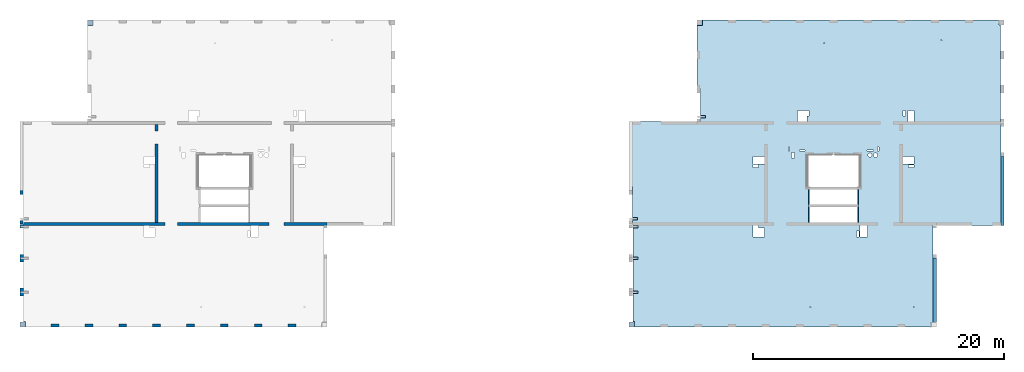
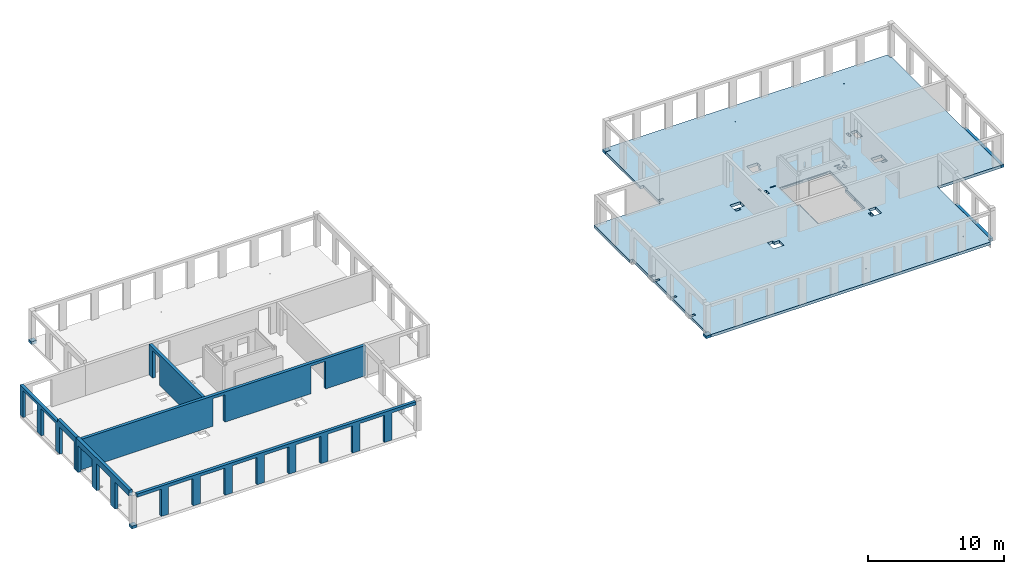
# One storey, part 2 of 8: 7 slabs, 5 walls, 55 openings.
"""IFC2X3 building model written with IfcOpenShell, lengths in millimetres."""

import ifcopenshell
import ifcopenshell.guid

model = None  # the IFC model being written
_history = None  # IfcOwnerHistory: only IFC2X3 demands one
_inside = {}  # id of a spatial element -> (the spatial element, [elements in it])
_under = {}  # id of a project, library or spatial element -> (it, [spatial elements below it])
_declared = {}  # id of a project -> (the project, [libraries it declares])
_typed = {}  # id of a type object -> (the type object, [elements of that type])
_made_of = {}  # id of a material, layer set ... -> (it, [elements and type objects made of it])


def new_model(schema):
    """Start an empty IFC model of exactly this schema.

    Asked for "IFC4X3", IfcOpenShell would pick the latest addendum, in which some entities
    have other attributes; the version numbers below select the first issue.
    IFC2X3 requires an IfcOwnerHistory on every rooted entity: one is made here for all.
    """
    global model, _history
    if schema == "IFC4X3":
        model = ifcopenshell.file(schema_version=(4, 3, 0, 0))
    else:
        model = ifcopenshell.file(schema=schema)
    _inside.clear()
    _under.clear()
    _declared.clear()
    _typed.clear()
    _made_of.clear()
    _history = None
    if model.schema == "IFC2X3":
        org = make("IfcOrganization", Name="unknown")
        user = make(
            "IfcPersonAndOrganization",
            ThePerson=make("IfcPerson", FamilyName="unknown"),
            TheOrganization=org,
        )
        app = make(
            "IfcApplication",
            ApplicationDeveloper=org,
            Version="unknown",
            ApplicationFullName="unknown",
            ApplicationIdentifier="unknown",
        )
        _history = make(
            "IfcOwnerHistory",
            OwningUser=user,
            OwningApplication=app,
            ChangeAction="ADDED",
            CreationDate=0,
        )
    return model


def make(cls, **values):
    """One entity of the class cls with the attributes given. An attribute that is None is left unset."""
    return model.create_entity(
        cls, **{name: value for name, value in values.items() if value is not None}
    )


def entity(cls, *values):
    """Any entity or typed value of the class cls, its attributes in the order of the schema. None: left unset."""
    e = model.create_entity(cls)
    for i, value in enumerate(values):
        if value is not None:
            e[i] = value
    return e


def rooted(cls, **values):
    """An entity with a GlobalId (a new one), such as an element, a storey or a relation."""
    return make(cls, GlobalId=ifcopenshell.guid.new(), OwnerHistory=_history, **values)


def si_unit(unit_type, name, prefix=None):
    """IfcSIUnit, for example si_unit("LENGTHUNIT", "METRE", prefix="MILLI")."""
    return make("IfcSIUnit", UnitType=unit_type, Prefix=prefix, Name=name)


def converted_unit(unit_type, name, factor, base, dimensions=None, offset=None):
    """IfcConversionBasedUnit, such as the inch: factor (a typed value) times the base unit."""
    return make(
        "IfcConversionBasedUnit"
        if offset is None
        else "IfcConversionBasedUnitWithOffset",
        ConversionOffset=offset,
        Dimensions=None
        if dimensions is None
        else entity("IfcDimensionalExponents", *dimensions),
        UnitType=unit_type,
        Name=name,
        ConversionFactor=make(
            "IfcMeasureWithUnit", ValueComponent=factor, UnitComponent=base
        ),
    )


def derived_unit(unit_type, elements):
    """IfcDerivedUnit: a product of units, each with its exponent."""
    return make(
        "IfcDerivedUnit",
        Elements=[
            make("IfcDerivedUnitElement", Unit=unit, Exponent=power)
            for unit, power in elements
        ],
        UnitType=unit_type,
    )


def assignment(units):
    """IfcUnitAssignment: the units of a project."""
    return None if units is None else make("IfcUnitAssignment", Units=units)


def point(xyz):
    """IfcCartesianPoint."""
    return None if xyz is None else make("IfcCartesianPoint", Coordinates=xyz)


def direction(xyz):
    """IfcDirection."""
    return None if xyz is None else make("IfcDirection", DirectionRatios=xyz)


def frame(location, z_axis=None, x_axis=None):
    """IfcAxis2Placement3D, a coordinate frame: its origin and axes. An axis left out is left unset."""
    return make(
        "IfcAxis2Placement3D",
        Location=point(location),
        Axis=direction(z_axis),
        RefDirection=direction(x_axis),
    )


def frame_2d(location, x_axis=None):
    """IfcAxis2Placement2D, a coordinate frame in the plane: its origin and x axis."""
    return make(
        "IfcAxis2Placement2D", Location=point(location), RefDirection=direction(x_axis)
    )


def origin():
    """The frame at (0, 0, 0) with its axes left unset."""
    return frame((0.0, 0.0, 0.0))


def origin_2d_with_axis():
    """The frame at (0, 0) in the plane with the x axis (1, 0) written out."""
    return frame_2d((0.0, 0.0), x_axis=(1.0, 0.0))


def place(relative_to, where):
    """IfcLocalPlacement: puts the frame where relative to a parent placement (None: the world)."""
    return make(
        "IfcLocalPlacement", PlacementRelTo=relative_to, RelativePlacement=where
    )


def context(
    kind, dimensions, precision=None, world=None, true_north=None, identifier=None
):
    """IfcGeometricRepresentationContext, for example the 3D "Model" context."""
    return make(
        "IfcGeometricRepresentationContext",
        ContextIdentifier=identifier,
        ContextType=kind,
        CoordinateSpaceDimension=dimensions,
        Precision=precision,
        WorldCoordinateSystem=world,
        TrueNorth=true_north,
    )


def subcontext(parent, identifier, kind, view, scale=None):
    """IfcGeometricRepresentationSubContext, for example "Body" below "Model"."""
    return make(
        "IfcGeometricRepresentationSubContext",
        ContextIdentifier=identifier,
        ContextType=kind,
        ParentContext=parent,
        TargetScale=scale,
        TargetView=view,
    )


def project(units=None, contexts=None):
    """IfcProject with its units and contexts."""
    return rooted(
        "IfcProject",
        Name="project",
        RepresentationContexts=contexts,
        UnitsInContext=assignment(units),
    )


def spatial(cls, under=None, at=None, **own):
    """A site, building, storey or space (cls), placed at a placement, below another one or the project."""
    s = rooted(cls, ObjectPlacement=at, **own)
    if under is not None:
        _under.setdefault(under.id(), (under, []))[1].append(s)
    return s


def polyline(points):
    """IfcPolyline through the points."""
    return make("IfcPolyline", Points=[point(p) for p in points])


def profile(cls, at=None, kind="AREA", **sizes):
    """A parametric profile (cls). Its sizes go by their IFC names, for example OverallWidth=200.0."""
    return make(cls, ProfileType=kind, Position=at, **sizes)


def rectangle(**sizes):
    """IfcRectangleProfileDef."""
    return profile("IfcRectangleProfileDef", **sizes)


def circle(**sizes):
    """IfcCircleProfileDef."""
    return profile("IfcCircleProfileDef", **sizes)


def outline(outer, holes=None, kind="AREA"):
    """IfcArbitraryClosedProfileDef: a profile drawn as a closed curve; with holes, ...WithVoids."""
    if holes is None:
        return make("IfcArbitraryClosedProfileDef", ProfileType=kind, OuterCurve=outer)
    return make(
        "IfcArbitraryProfileDefWithVoids",
        ProfileType=kind,
        OuterCurve=outer,
        InnerCurves=holes,
    )


def extrude(swept, where, along, depth):
    """IfcExtrudedAreaSolid: the profile swept, set in the frame where, extruded along a direction by depth."""
    return make(
        "IfcExtrudedAreaSolid",
        SweptArea=swept,
        Position=where,
        ExtrudedDirection=direction(along),
        Depth=depth,
    )


def shape(context_of_items, identifier, shape_type, items):
    """IfcShapeRepresentation: the items that make up one representation, for example the "Body"."""
    return make(
        "IfcShapeRepresentation",
        ContextOfItems=context_of_items,
        RepresentationIdentifier=identifier,
        RepresentationType=shape_type,
        Items=items,
    )


def material(Name=None, Category=None):
    """IfcMaterial."""
    return make("IfcMaterial", Name=Name, Category=Category)


def layer(
    of_material, thickness, ventilated=None, Name=None, Category=None, Priority=None
):
    """IfcMaterialLayer: one layer of a wall or slab, of a material (None: an air gap)."""
    return make(
        "IfcMaterialLayer",
        Material=of_material,
        LayerThickness=thickness,
        IsVentilated=ventilated,
        Name=Name,
        Category=Category,
        Priority=Priority,
    )


def layer_set(layers, Name=None):
    """IfcMaterialLayerSet."""
    return make("IfcMaterialLayerSet", MaterialLayers=layers, LayerSetName=Name)


def layer_usage(for_layer_set, set_direction, sense, offset, extent=None):
    """IfcMaterialLayerSetUsage: how a layer set lies in its element."""
    return make(
        "IfcMaterialLayerSetUsage",
        ForLayerSet=for_layer_set,
        LayerSetDirection=set_direction,
        DirectionSense=sense,
        OffsetFromReferenceLine=offset,
        ReferenceExtent=extent,
    )


def made_of(thing, what):
    """Note that an element or type object is made of a material, layer set ...; save() writes the relation."""
    if what is not None:
        _made_of.setdefault(what.id(), (what, []))[1].append(thing)
    return thing


def type_object(cls, material=None, **own):
    """A type object (cls), such as IfcWallType, which elements share."""
    return made_of(rooted(cls, **own), material)


def element(
    cls,
    number,
    at=None,
    inside=None,
    cuts=None,
    type_object=None,
    material=None,
    context=None,
    identifier="Body",
    shape_type=None,
    held_by="IfcProductDefinitionShape",
    body=None,
    shapes=None,
    **own,
):
    """One element of the class cls, such as IfcWall. Its Tag is "e" and its number.

    at: its placement. inside: the storey or other place that contains it. cuts: it is an
    opening in that element (IfcRelVoidsElement). A single representation is given by context,
    identifier, shape_type and body (its items); several are given by shapes. held_by: the class
    of the entity that holds the representations. save() writes the other relations.
    """
    e = rooted(cls, Tag="e%d" % number, ObjectPlacement=at, **own)
    if body is not None:
        shapes = [shape(context, identifier, shape_type, body)]
    if shapes is not None:
        e.Representation = make(held_by, Representations=shapes)
    if inside is not None:
        _inside.setdefault(inside.id(), (inside, []))[1].append(e)
    if cuts is not None:
        rooted(
            "IfcRelVoidsElement", RelatingBuildingElement=cuts, RelatedOpeningElement=e
        )
    if type_object is not None:
        _typed.setdefault(type_object.id(), (type_object, []))[1].append(e)
    return made_of(e, material)


def aggregate(whole, parts):
    """IfcRelAggregates: a whole, such as a stair, and the parts it consists of."""
    return rooted("IfcRelAggregates", RelatingObject=whole, RelatedObjects=parts)


def save(model, path):
    """Write the relations noted so far, then the file.

    IfcRelAggregates (storeys below a building ...), IfcRelContainedInSpatialStructure (elements
    in a storey), IfcRelDefinesByType, IfcRelAssociatesMaterial and IfcRelDeclares: one each for
    every whole, place, type object, material and project.
    """
    for whole, parts in _under.values():
        aggregate(whole, parts)
    for where, things in _inside.values():
        rooted(
            "IfcRelContainedInSpatialStructure",
            RelatedElements=things,
            RelatingStructure=where,
        )
    for kind, things in _typed.values():
        rooted("IfcRelDefinesByType", RelatedObjects=things, RelatingType=kind)
    for what, things in _made_of.values():
        rooted("IfcRelAssociatesMaterial", RelatedObjects=things, RelatingMaterial=what)
    for by, libraries in _declared.values():
        rooted("IfcRelDeclares", RelatingContext=by, RelatedDefinitions=libraries)
    model.write(path)


model = new_model("IFC2X3")

# Units and contexts
model_context = context("Model", 3, precision=0.01, world=origin(), true_north=direction((6.12303176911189e-17, 1.0)))
body_context = subcontext(model_context, "Body", "Model", "MODEL_VIEW")
ifc_project = project(units=[si_unit("LENGTHUNIT", "METRE", prefix="MILLI"), si_unit("AREAUNIT", "SQUARE_METRE"), si_unit("VOLUMEUNIT", "CUBIC_METRE"), converted_unit("PLANEANGLEUNIT", "DEGREE", entity("IfcRatioMeasure", 0.0174532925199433), si_unit("PLANEANGLEUNIT", "RADIAN"), dimensions=[0, 0, 0, 0, 0, 0, 0]), si_unit("MASSUNIT", "GRAM", prefix="KILO"), derived_unit("MASSDENSITYUNIT", [(si_unit("MASSUNIT", "GRAM", prefix="KILO"), 1), (si_unit("LENGTHUNIT", "METRE"), -3)]), si_unit("TIMEUNIT", "SECOND"), si_unit("FREQUENCYUNIT", "HERTZ"), si_unit("THERMODYNAMICTEMPERATUREUNIT", "DEGREE_CELSIUS"), derived_unit("THERMALTRANSMITTANCEUNIT", [(si_unit("MASSUNIT", "GRAM", prefix="KILO"), 1), (si_unit("THERMODYNAMICTEMPERATUREUNIT", "KELVIN"), -1), (si_unit("TIMEUNIT", "SECOND"), -3)]), derived_unit("VOLUMETRICFLOWRATEUNIT", [(si_unit("LENGTHUNIT", "METRE"), 3), (si_unit("TIMEUNIT", "SECOND"), -1)]), si_unit("ELECTRICCURRENTUNIT", "AMPERE"), si_unit("ELECTRICVOLTAGEUNIT", "VOLT"), si_unit("POWERUNIT", "WATT"), si_unit("FORCEUNIT", "NEWTON", prefix="KILO"), si_unit("ILLUMINANCEUNIT", "LUX"), si_unit("LUMINOUSFLUXUNIT", "LUMEN"), si_unit("LUMINOUSINTENSITYUNIT", "CANDELA"), derived_unit("USERDEFINED", [(si_unit("MASSUNIT", "GRAM", prefix="KILO"), -1), (si_unit("LENGTHUNIT", "METRE"), -2), (si_unit("TIMEUNIT", "SECOND"), 3), (si_unit("LUMINOUSFLUXUNIT", "LUMEN"), 1)]), derived_unit("LINEARVELOCITYUNIT", [(si_unit("LENGTHUNIT", "METRE"), 1), (si_unit("TIMEUNIT", "SECOND"), -1)]), si_unit("PRESSUREUNIT", "PASCAL"), derived_unit("USERDEFINED", [(si_unit("LENGTHUNIT", "METRE"), -2), (si_unit("MASSUNIT", "GRAM", prefix="KILO"), 1), (si_unit("TIMEUNIT", "SECOND"), -2)])], contexts=[model_context])

# Site, building, storey
site_placement = place(None, origin())
site = spatial("IfcSite", under=ifc_project, at=site_placement, Name="Default", CompositionType="ELEMENT")
building_placement = place(site_placement, origin())
building = spatial("IfcBuilding", under=site, at=building_placement, Name="niet gebruiken", CompositionType="ELEMENT")
storey_placement = place(building_placement, frame((0.0, 0.0, 42300.0)))
storey = spatial("IfcBuildingStorey", under=building, at=storey_placement, Name="14 veertiende verdieping", CompositionType="ELEMENT", Elevation=42300.0)

# Slab, openings
ifc_material_1 = material(Name="NLRS_f2_beton ihwg")
ifc_layer_1 = layer(ifc_material_1, 250.0)
ifc_layer_set_1 = layer_set([ifc_layer_1], Name="Floor:NLRS_23.21_FL_beton ihwg d=250_gen")
ifc_layer_usage_1 = layer_usage(ifc_layer_set_1, "AXIS3", "POSITIVE", 0.0)
slab_1_placement = place(storey_placement, frame((75750.0, 28756.0, -340.0)))
slab_1 = element("IfcSlab", 1, at=slab_1_placement, inside=storey, material=ifc_layer_usage_1, Name="Floor:NLRS_23.21_FL_beton ihwg d=250_gen", ObjectType="Floor:NLRS_23.21_FL_beton ihwg d=250_gen", PredefinedType="FLOOR", context=body_context, shape_type="SweptSolid", body=[
    extrude(outline(polyline([(9119.99996701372, 12250.0), (-14540.0, 12250.0), (-14540.0, 11840.0), (-14680.0, 11840.0), (-14680.0, 4060.0), (-14700.0, 4060.0), (-14700.0, -4150.0), (-9300.0, -4150.0), (-9300.0, -11890.0), (-9140.0, -11890.0), (-9140.0, -12250.0), (14520.0, -12250.0), (14520.0, -11820.0), (14660.0, -11820.0), (14660.0, -4060.0), (14680.0, -4060.0), (14680.0, -1040.0), (14950.0, -1040.0), (14950.0, 4150.0), (9280.0, 4150.0), (9280.0, 6750.0), (9550.0, 6750.0), (9550.0, 11820.0), (9119.99996701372, 11820.0), (9119.99996701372, 12250.0)])), frame((14700.0, 12250.0, 250.0), z_axis=(0.0, 0.0, -1.0), x_axis=(-1.0, 0.0, 0.0)), (0.0, 0.0, 1.0), 250.000000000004),
])
opening_1_placement = place(storey_placement, frame((75750.0, 28756.0, -340.0)))
element("IfcOpeningElement", 2, at=opening_1_placement, cuts=slab_1, ObjectType="Opening", context=body_context, shape_type="SweptSolid", body=[
    extrude(circle(Radius=37.5, at=frame_2d((-7750.0, -10650.0), x_axis=(1.0, 0.0))), frame((14700.0, 12250.0, 250.0), z_axis=(0.0, 0.0, -1.0), x_axis=(-1.0, 0.0, 0.0)), (0.0, 0.0, 1.0), 250.000000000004),
])
opening_2_placement = place(storey_placement, frame((75750.0, 28756.0, -340.0)))
element("IfcOpeningElement", 3, at=opening_2_placement, cuts=slab_1, ObjectType="Opening", context=body_context, shape_type="SweptSolid", body=[
    extrude(circle(Radius=37.5, at=frame_2d((-9950.0, 10650.0), x_axis=(1.0, 0.0))), frame((14700.0, 12250.0, 250.0), z_axis=(0.0, 0.0, -1.0), x_axis=(-1.0, 0.0, 0.0)), (0.0, 0.0, 1.0), 250.000000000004),
])
opening_3_placement = place(storey_placement, frame((75750.0, 28756.0, -340.0)))
element("IfcOpeningElement", 4, at=opening_3_placement, cuts=slab_1, ObjectType="Opening", context=body_context, shape_type="SweptSolid", body=[
    extrude(circle(Radius=37.5, at=frame_2d((-600.0, 10400.0), x_axis=(1.0, 0.0))), frame((14700.0, 12250.0, 250.0), z_axis=(0.0, 0.0, -1.0), x_axis=(-1.0, 0.0, 0.0)), (0.0, 0.0, 1.0), 250.000000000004),
])
opening_4_placement = place(storey_placement, frame((75750.0, 28756.0, -340.0)))
element("IfcOpeningElement", 5, at=opening_4_placement, cuts=slab_1, ObjectType="Opening", context=body_context, shape_type="SweptSolid", body=[
    extrude(circle(Radius=37.5, at=frame_2d((500.0, -10650.0), x_axis=(1.0, 0.0))), frame((14700.0, 12250.0, 250.0), z_axis=(0.0, 0.0, -1.0), x_axis=(-1.0, 0.0, 0.0)), (0.0, 0.0, 1.0), 250.000000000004),
])
opening_5_placement = place(slab_1_placement, origin())
element("IfcOpeningElement", 6, at=opening_5_placement, cuts=slab_1, ObjectType="Opening", context=body_context, shape_type="SweptSolid", body=[
    extrude(rectangle(XDim=109.999999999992, YDim=1220.0, at=origin_2d_with_axis()), frame((14094.9999671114, 10380.0, 210.0)), (0.0, 0.0, 1.0), 39.9999999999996),
])
opening_6_placement = place(slab_1_placement, origin())
element("IfcOpeningElement", 7, at=opening_6_placement, cuts=slab_1, ObjectType="Opening", context=body_context, shape_type="SweptSolid", body=[
    extrude(rectangle(XDim=109.999999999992, YDim=1220.0, at=origin_2d_with_axis()), frame((18005.0, 10380.0, 210.0)), (0.0, 0.0, 1.0), 39.9999999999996),
])
opening_7_placement = place(slab_1_placement, origin())
element("IfcOpeningElement", 8, at=opening_7_placement, cuts=slab_1, ObjectType="Opening", context=body_context, shape_type="SweptSolid", body=[
    extrude(rectangle(XDim=109.999999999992, YDim=1220.0, at=origin_2d_with_axis()), frame((18005.0, 8960.0, 210.0)), (0.0, 0.0, 1.0), 39.9999999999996),
])
opening_8_placement = place(slab_1_placement, origin())
element("IfcOpeningElement", 9, at=opening_8_placement, cuts=slab_1, ObjectType="Opening", context=body_context, shape_type="SweptSolid", body=[
    extrude(rectangle(XDim=109.999999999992, YDim=1220.0, at=origin_2d_with_axis()), frame((14094.9999671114, 8960.0, 210.0)), (0.0, 0.0, 1.0), 39.9999999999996),
])
opening_9_placement = place(slab_1_placement, origin())
element("IfcOpeningElement", 10, at=opening_9_placement, cuts=slab_1, ObjectType="Opening", context=body_context, shape_type="SweptSolid", body=[
    extrude(rectangle(XDim=400.000000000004, YDim=200.000000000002, at=origin_2d_with_axis()), frame((220.0, 8630.0, 220.0)), (0.0, 0.0, 1.0), 30.0000000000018),
])
opening_10_placement = place(slab_1_placement, origin())
element("IfcOpeningElement", 11, at=opening_10_placement, cuts=slab_1, ObjectType="Opening", context=body_context, shape_type="SweptSolid", body=[
    extrude(rectangle(XDim=200.000000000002, YDim=400.000000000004, at=origin_2d_with_axis()), frame((240.0, 8000.0, 220.0), z_axis=(0.0, 0.0, 1.0), x_axis=(0.0, -1.0, 0.0)), (0.0, 0.0, 1.0), 30.0000000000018),
])
opening_11_placement = place(slab_1_placement, origin())
element("IfcOpeningElement", 12, at=opening_11_placement, cuts=slab_1, ObjectType="Opening", context=body_context, shape_type="SweptSolid", body=[
    extrude(rectangle(XDim=200.000000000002, YDim=400.000000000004, at=origin_2d_with_axis()), frame((240.0, 5500.0, 220.0), z_axis=(0.0, 0.0, 1.0), x_axis=(0.0, -1.0, 0.0)), (0.0, 0.0, 1.0), 30.0000000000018),
])
opening_12_placement = place(slab_1_placement, origin())
element("IfcOpeningElement", 13, at=opening_12_placement, cuts=slab_1, ObjectType="Opening", context=body_context, shape_type="SweptSolid", body=[
    extrude(rectangle(XDim=200.000000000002, YDim=400.000000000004, at=origin_2d_with_axis()), frame((240.0, 2800.0, 220.0), z_axis=(0.0, 0.0, 1.0), x_axis=(0.0, -1.0, 0.0)), (0.0, 0.0, 1.0), 30.0000000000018),
])
opening_13_placement = place(slab_1_placement, origin())
element("IfcOpeningElement", 14, at=opening_13_placement, cuts=slab_1, ObjectType="Opening", context=body_context, shape_type="SweptSolid", body=[
    extrude(rectangle(XDim=399.999999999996, YDim=199.999999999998, at=origin_2d_with_axis()), frame((5620.0, 16765.0, 220.0)), (0.0, 0.0, 1.0), 30.0000000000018),
])
opening_14_placement = place(slab_1_placement, origin())
element("IfcOpeningElement", 15, at=opening_14_placement, cuts=slab_1, ObjectType="Opening", context=body_context, shape_type="SweptSolid", body=[
    extrude(rectangle(XDim=900.000000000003, YDim=730.000000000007, at=origin_2d_with_axis()), frame((13550.0, 16850.0, 0.0), z_axis=(0.0, 0.0, 1.0), x_axis=(0.0, 1.0, 0.0)), (0.0, 0.0, 1.0), 250.000000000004),
])
opening_15_placement = place(slab_1_placement, origin())
element("IfcOpeningElement", 16, at=opening_15_placement, cuts=slab_1, ObjectType="Opening", context=body_context, shape_type="SweptSolid", body=[
    extrude(rectangle(XDim=169.999999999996, YDim=450.000000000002, at=origin_2d_with_axis()), frame((14000.0, 17075.0, 0.0), z_axis=(0.0, 0.0, 1.0), x_axis=(-1.0, 0.0, 0.0)), (0.0, 0.0, 1.0), 250.000000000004),
])
opening_16_placement = place(slab_1_placement, origin())
element("IfcOpeningElement", 17, at=opening_16_placement, cuts=slab_1, ObjectType="Opening", context=body_context, shape_type="SweptSolid", body=[
    extrude(rectangle(XDim=900.000000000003, YDim=700.000000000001, at=origin_2d_with_axis()), frame((10075.0, 7550.0, 0.0), z_axis=(0.0, 0.0, 1.0), x_axis=(-1.0, 0.0, 0.0)), (0.0, 0.0, 1.0), 250.000000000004),
])
opening_17_placement = place(slab_1_placement, origin())
element("IfcOpeningElement", 18, at=opening_17_placement, cuts=slab_1, ObjectType="Opening", context=body_context, shape_type="SweptSolid", body=[
    extrude(rectangle(XDim=200.000000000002, YDim=450.000000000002, at=origin_2d_with_axis()), frame((9850.0, 8000.0, 0.0), z_axis=(0.0, 0.0, 1.0), x_axis=(0.0, -1.0, 0.0)), (0.0, 0.0, 1.0), 250.000000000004),
])
opening_18_placement = place(slab_1_placement, origin())
element("IfcOpeningElement", 19, at=opening_18_placement, cuts=slab_1, ObjectType="Opening", context=body_context, shape_type="SweptSolid", body=[
    extrude(rectangle(XDim=900.000000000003, YDim=600.000000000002, at=origin_2d_with_axis()), frame((10075.0, 13330.0, 0.0), z_axis=(0.0, 0.0, 1.0), x_axis=(-1.0, 0.0, 0.0)), (0.0, 0.0, 1.0), 250.000000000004),
])
opening_19_placement = place(slab_1_placement, origin())
element("IfcOpeningElement", 20, at=opening_19_placement, cuts=slab_1, ObjectType="Opening", context=body_context, shape_type="SweptSolid", body=[
    extrude(rectangle(XDim=900.000000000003, YDim=500.000000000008, at=origin_2d_with_axis()), frame((22225.0, 16850.0, 0.0), z_axis=(0.0, 0.0, 1.0), x_axis=(0.0, 1.0, 0.0)), (0.0, 0.0, 1.0), 250.000000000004),
])
opening_20_placement = place(slab_1_placement, origin())
element("IfcOpeningElement", 21, at=opening_20_placement, cuts=slab_1, ObjectType="Opening", context=body_context, shape_type="SweptSolid", body=[
    extrude(rectangle(XDim=899.999999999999, YDim=600.000000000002, at=origin_2d_with_axis()), frame((18479.9818996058, 7650.0, 0.0), z_axis=(0.0, 0.0, 1.0), x_axis=(0.0, 1.0, 0.0)), (0.0, 0.0, 1.0), 250.000000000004),
])
opening_21_placement = place(slab_1_placement, origin())
element("IfcOpeningElement", 22, at=opening_21_placement, cuts=slab_1, ObjectType="Opening", context=body_context, shape_type="SweptSolid", body=[
    extrude(rectangle(XDim=900.000000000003, YDim=600.000000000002, at=origin_2d_with_axis()), frame((22025.0, 13330.0, 0.0), z_axis=(0.0, 0.0, 1.0), x_axis=(-1.0, 0.0, 0.0)), (0.0, 0.0, 1.0), 250.000000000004),
])
opening_22_placement = place(slab_1_placement, origin())
element("IfcOpeningElement", 23, at=opening_22_placement, cuts=slab_1, ObjectType="Opening", context=body_context, shape_type="SweptSolid", body=[
    extrude(rectangle(XDim=1760.00000000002, YDim=23.0000000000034, at=origin_2d_with_axis()), frame((14994.9998491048, 13751.5, 180.0)), (0.0, 0.0, 1.0), 40.0000000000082),
])
opening_23_placement = place(slab_1_placement, origin())
element("IfcOpeningElement", 24, at=opening_23_placement, cuts=slab_1, ObjectType="Opening", context=body_context, shape_type="SweptSolid", body=[
    extrude(rectangle(XDim=1760.0, YDim=23.0000000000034, at=origin_2d_with_axis()), frame((17104.999849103, 13751.5, 180.0)), (0.0, 0.0, 1.0), 40.0000000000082),
])
opening_24_placement = place(slab_1_placement, origin())
element("IfcOpeningElement", 25, at=opening_24_placement, cuts=slab_1, ObjectType="Opening", context=body_context, shape_type="SweptSolid", body=[
    extrude(rectangle(XDim=99.9999999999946, YDim=340.000000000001, at=origin_2d_with_axis()), frame((19615.0, 14210.0, 0.0), z_axis=(0.0, 0.0, 1.0), x_axis=(-1.0, 0.0, 0.0)), (0.0, 0.0, 1.0), 250.000000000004),
])
opening_25_placement = place(slab_1_placement, origin())
element("IfcOpeningElement", 26, at=opening_25_placement, cuts=slab_1, ObjectType="Opening", context=body_context, shape_type="SweptSolid", body=[
    extrude(rectangle(XDim=100.000000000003, YDim=490.00000000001, at=origin_2d_with_axis()), frame((18975.0, 14090.0, 0.0), z_axis=(0.0, 0.0, 1.0), x_axis=(0.0, -1.0, 0.0)), (0.0, 0.0, 1.0), 250.000000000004),
])
opening_26_placement = place(slab_1_placement, origin())
element("IfcOpeningElement", 27, at=opening_26_placement, cuts=slab_1, ObjectType="Opening", context=body_context, shape_type="SweptSolid", body=[
    extrude(rectangle(XDim=100.000000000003, YDim=440.000000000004, at=origin_2d_with_axis()), frame((13555.0, 14090.0, 0.0), z_axis=(0.0, 0.0, 1.0), x_axis=(0.0, -1.0, 0.0)), (0.0, 0.0, 1.0), 250.000000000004),
])
opening_27_placement = place(slab_1_placement, origin())
element("IfcOpeningElement", 28, at=opening_27_placement, cuts=slab_1, ObjectType="Opening", context=body_context, shape_type="SweptSolid", body=[
    extrude(rectangle(XDim=99.9999999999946, YDim=340.000000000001, at=origin_2d_with_axis()), frame((12505.0, 14210.0, 0.0), z_axis=(0.0, 0.0, 1.0), x_axis=(-1.0, 0.0, 0.0)), (0.0, 0.0, 1.0), 250.000000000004),
])
opening_28_placement = place(slab_1_placement, origin())
element("IfcOpeningElement", 29, at=opening_28_placement, cuts=slab_1, ObjectType="Opening", context=body_context, shape_type="SweptSolid", body=[
    extrude(rectangle(XDim=230.0, YDim=450.000000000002, at=origin_2d_with_axis()), frame((9850.00008659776, 12845.0002270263, 0.0), z_axis=(0.0, 0.0, 1.0), x_axis=(0.0, -1.0, 0.0)), (0.0, 0.0, 1.0), 250.000000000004),
])
opening_29_placement = place(slab_1_placement, origin())
element("IfcOpeningElement", 30, at=opening_29_placement, cuts=slab_1, ObjectType="Opening", context=body_context, shape_type="SweptSolid", body=[
    extrude(rectangle(XDim=220.000000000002, YDim=450.000000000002, at=origin_2d_with_axis()), frame((21685.0, 17075.0, 0.0), z_axis=(0.0, 0.0, 1.0), x_axis=(-1.0, 0.0, 0.0)), (0.0, 0.0, 1.0), 250.000000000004),
])
opening_30_placement = place(slab_1_placement, origin())
element("IfcOpeningElement", 31, at=opening_30_placement, cuts=slab_1, ObjectType="Opening", context=body_context, shape_type="SweptSolid", body=[
    extrude(rectangle(XDim=220.000000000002, YDim=450.000000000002, at=origin_2d_with_axis()), frame((22250.0, 12840.0, 0.0), z_axis=(0.0, 0.0, 1.0), x_axis=(0.0, -1.0, 0.0)), (0.0, 0.0, 1.0), 250.000000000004),
])
opening_31_placement = place(slab_1_placement, origin())
element("IfcOpeningElement", 32, at=opening_31_placement, cuts=slab_1, ObjectType="Opening", context=body_context, shape_type="SweptSolid", body=[
    extrude(rectangle(XDim=220.000000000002, YDim=450.000000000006, at=origin_2d_with_axis()), frame((17990.0, 7425.0, 0.0)), (0.0, 0.0, 1.0), 250.000000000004),
])
opening_32_placement = place(slab_1_placement, origin())
element("IfcOpeningElement", 33, at=opening_32_placement, cuts=slab_1, ObjectType="Opening", context=body_context, shape_type="SweptSolid", body=[
    extrude(rectangle(XDim=249.999999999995, YDim=440.000000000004, at=origin_2d_with_axis()), frame((12805.0, 13720.0, 0.0)), (0.0, 0.0, 1.0), 250.000000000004),
])
opening_33_placement = place(slab_1_placement, origin())
element("IfcOpeningElement", 34, at=opening_33_placement, cuts=slab_1, ObjectType="Opening", context=body_context, shape_type="SweptSolid", body=[
    extrude(circle(Radius=157.5, at=origin_2d_with_axis()), frame((18950.0, 13720.0, 0.0)), (0.0, 0.0, 1.0), 250.000000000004),
])
opening_34_placement = place(slab_1_placement, origin())
element("IfcOpeningElement", 35, at=opening_34_placement, cuts=slab_1, ObjectType="Opening", context=body_context, shape_type="SweptSolid", body=[
    extrude(circle(Radius=177.5, at=origin_2d_with_axis()), frame((19400.0, 13720.0, 0.0)), (0.0, 0.0, 1.0), 250.000000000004),
])
opening_35_placement = place(slab_1_placement, frame((16050.0, 10378.7499999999, 250.0)))
element("IfcOpeningElement", 36, at=opening_35_placement, cuts=slab_1, Name="Floor:NLRS_23.21_FL_beton ihwg d=250_gen:2", ObjectType="Opening", context=body_context, shape_type="SweptSolid", body=[
    extrude(outline(polyline([(-1899.99998355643, -2028.75), (1900.00001644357, -2028.75), (1900.00001644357, -808.749999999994), (1999.99998355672, -808.749999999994), (1999.99998355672, -608.749999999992), (1900.00001644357, -608.749999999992), (1900.00001644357, 751.250000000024), (2134.99998355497, 751.250000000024), (2134.99998355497, 3361.24999999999), (-2135.0000164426, 3361.24999999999), (-2135.0000164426, 751.250000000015), (-1899.99998355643, 751.250000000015), (-1899.99998355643, -608.750000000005), (-2000.00001644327, -608.750000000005), (-2000.00001644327, -808.750000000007), (-1899.99998355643, -808.750000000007), (-1899.99998355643, -2028.75)])), frame((0.0, 0.0, 0.0), z_axis=(0.0, 0.0, -1.0), x_axis=(-1.0, 0.0, 0.0)), (0.0, 0.0, 1.0), 250.000000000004),
])

# Slabs
ifc_layer_usage_2 = layer_usage(ifc_layer_set_1, "AXIS3", "POSITIVE", 0.0)
slab_2_placement = place(storey_placement, origin())
element("IfcSlab", 37, at=slab_2_placement, inside=storey, material=ifc_layer_usage_2, Name="Floor:NLRS_23.21_FL_beton ihwg d=250_gen", ObjectType="Floor:NLRS_23.21_FL_beton ihwg d=250_gen", PredefinedType="FLOOR", context=body_context, shape_type="SweptSolid", body=[
    extrude(rectangle(XDim=5140.00000000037, YDim=250.000065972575, at=frame_2d((-2.27373675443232e-12, 0.0), x_axis=(1.0, 0.0))), frame((99875.0, 31686.0, -90.0), z_axis=(0.0, 0.0, -1.0), x_axis=(0.0, 1.0, 0.0)), (0.0, 0.0, 1.0), 250.000000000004),
])
ifc_layer_usage_3 = layer_usage(ifc_layer_set_1, "AXIS3", "POSITIVE", 0.0)
slab_3_placement = place(storey_placement, origin())
element("IfcSlab", 38, at=slab_3_placement, inside=storey, material=ifc_layer_usage_3, Name="Floor:NLRS_23.21_FL_beton ihwg d=250_gen", ObjectType="Floor:NLRS_23.21_FL_beton ihwg d=250_gen", PredefinedType="FLOOR", context=body_context, shape_type="SweptSolid", body=[
    extrude(rectangle(XDim=5500.00000000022, YDim=250.000000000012, at=origin_2d_with_axis()), frame((105275.0, 39606.0, -90.0), z_axis=(0.0, 0.0, -1.0), x_axis=(0.0, 1.0, 0.0)), (0.0, 0.0, 1.0), 250.000000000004),
])
ifc_layer_usage_4 = layer_usage(ifc_layer_set_1, "AXIS3", "POSITIVE", 0.0)
slab_4_placement = place(storey_placement, origin())
element("IfcSlab", 39, at=slab_4_placement, inside=storey, material=ifc_layer_usage_4, Name="Floor:NLRS_23.21_FL_beton ihwg d=250_gen", ObjectType="Floor:NLRS_23.21_FL_beton ihwg d=250_gen", PredefinedType="FLOOR", context=body_context, shape_type="SweptSolid", body=[
    extrude(outline(polyline([(-280.0, -240.0), (130.0, -240.0), (130.0, 50.0), (150.0, 50.0), (150.0, 190.0), (-280.0, 190.0), (-280.0, -240.0)])), frame((75740.0, 29036.0, -90.0), z_axis=(0.0, 0.0, -1.0), x_axis=(0.0, 1.0, 0.0)), (0.0, 0.0, 1.0), 250.000000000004),
])
ifc_layer_usage_5 = layer_usage(ifc_layer_set_1, "AXIS3", "POSITIVE", 0.0)
slab_5_placement = place(storey_placement, origin())
element("IfcSlab", 40, at=slab_5_placement, inside=storey, material=ifc_layer_usage_5, Name="Floor:NLRS_23.21_FL_beton ihwg d=250_gen", ObjectType="Floor:NLRS_23.21_FL_beton ihwg d=250_gen", PredefinedType="FLOOR", context=body_context, shape_type="SweptSolid", body=[
    extrude(outline(polyline([(-280.0, -240.0), (130.0, -240.0), (130.0, 50.0), (150.0, 50.0), (150.0, 190.0), (-280.0, 190.0), (-280.0, -240.0)])), frame((27140.0, 29036.0, -90.0), z_axis=(0.0, 0.0, -1.0), x_axis=(0.0, 1.0, 0.0)), (0.0, 0.0, 1.0), 250.000000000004),
])
ifc_layer_usage_6 = layer_usage(ifc_layer_set_1, "AXIS3", "POSITIVE", 0.0)
slab_6_placement = place(storey_placement, origin())
element("IfcSlab", 41, at=slab_6_placement, inside=storey, material=ifc_layer_usage_6, Name="Floor:NLRS_23.21_FL_beton ihwg d=250_gen", ObjectType="Floor:NLRS_23.21_FL_beton ihwg d=250_gen", PredefinedType="FLOOR", context=body_context, shape_type="SweptSolid", body=[
    extrude(rectangle(XDim=429.999999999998, YDim=430.000032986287, at=frame_2d((4.33431068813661e-12, 0.0), x_axis=(1.0, 0.0))), frame((81115.0, 53041.0, -90.0), z_axis=(0.0, 0.0, -1.0), x_axis=(0.0, 1.0, 0.0)), (0.0, 0.0, 1.0), 250.000000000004),
])
ifc_layer_usage_7 = layer_usage(ifc_layer_set_1, "AXIS3", "POSITIVE", 0.0)
slab_7_placement = place(storey_placement, origin())
element("IfcSlab", 42, at=slab_7_placement, inside=storey, material=ifc_layer_usage_7, Name="Floor:NLRS_23.21_FL_beton ihwg d=250_gen", ObjectType="Floor:NLRS_23.21_FL_beton ihwg d=250_gen", PredefinedType="FLOOR", context=body_context, shape_type="SweptSolid", body=[
    extrude(rectangle(XDim=429.999999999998, YDim=430.000032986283, at=frame_2d((4.33431068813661e-12, 2.1600499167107e-12), x_axis=(1.0, 0.0))), frame((32515.0, 53041.0, -90.0), z_axis=(0.0, 0.0, -1.0), x_axis=(0.0, 1.0, 0.0)), (0.0, 0.0, 1.0), 250.000000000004),
])

# Wall, openings
ifc_layer_2 = layer(ifc_material_1, 250.0)
ifc_layer_set_2 = layer_set([ifc_layer_2], Name="Basic Wall:NLRS_22.21_WA_beton ihwg d=250_gen")
ifc_layer_usage_8 = layer_usage(ifc_layer_set_2, "AXIS2", "NEGATIVE", 125.0)
wall_type_1 = type_object("IfcWallType", Name="Basic Wall:NLRS_22.21_WA_beton ihwg d=250_gen", PredefinedType="STANDARD", material=ifc_layer_set_2)
wall_1_placement = place(storey_placement, frame((27170.0, 36981.0, -90.0)))
wall_1 = element("IfcWallStandardCase", 43, at=wall_1_placement, inside=storey, type_object=wall_type_1, material=ifc_layer_usage_8, Name="Basic Wall:NLRS_22.21_WA_beton ihwg d=250_gen", ObjectType="Basic Wall:NLRS_22.21_WA_beton ihwg d=250_gen", context=body_context, shape_type="SweptSolid", body=[
    extrude(rectangle(XDim=24230.0000000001, YDim=250.000000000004, at=frame_2d((12115.0, 0.0), x_axis=(-1.0, 0.0))), origin(), (0.0, 0.0, 1.0), 2719.99999999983),
])
opening_36_placement = place(wall_1_placement, origin())
element("IfcOpeningElement", 44, at=opening_36_placement, cuts=wall_1, Name="Basic Wall:NLRS_22.21_WA_beton ihwg d=250_gen", ObjectType="Opening", context=body_context, shape_type="SweptSolid", body=[
    extrude(rectangle(XDim=2470.0, YDim=1225.0, at=frame_2d((0.0, -4.43378667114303e-12), x_axis=(0.0, 1.0))), frame((20192.500000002, -1399.0, 1235.0), z_axis=(0.0, 1.0, 0.0), x_axis=(-1.0, 0.0, 0.0)), (0.0, 0.0, 1.0), 3048.0),
])
opening_37_placement = place(wall_1_placement, origin())
element("IfcOpeningElement", 45, at=opening_37_placement, cuts=wall_1, Name="Basic Wall:NLRS_22.21_WA_beton ihwg d=250_gen", ObjectType="Opening", context=body_context, shape_type="SweptSolid", body=[
    extrude(rectangle(XDim=2470.0, YDim=1006.0, at=frame_2d((2.1600499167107e-12, 4.43378667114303e-12), x_axis=(0.0, 1.0))), frame((11782.0, -1399.0, 1235.0), z_axis=(0.0, 1.0, 0.0), x_axis=(-1.0, 0.0, 0.0)), (0.0, 0.0, 1.0), 3048.0),
])
opening_38_placement = place(wall_1_placement, origin())
element("IfcOpeningElement", 46, at=opening_38_placement, cuts=wall_1, Name="Basic Wall:NLRS_22.21_WA_beton ihwg d=250_gen", ObjectType="Recess", context=body_context, shape_type="SweptSolid", body=[
    extrude(rectangle(XDim=55000.0, YDim=20.0000000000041, at=frame_2d((0.0, -2.16626716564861e-12), x_axis=(1.0, 0.0))), frame((10.0, -140.0, -2200.0), z_axis=(0.0, 1.0, 0.0), x_axis=(0.0, 0.0, -1.0)), (0.0, 0.0, 1.0), 124.999999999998),
])

# Wall, opening
ifc_layer_usage_9 = layer_usage(ifc_layer_set_2, "AXIS2", "NEGATIVE", 125.0)
wall_2_placement = place(storey_placement, frame((37800.0, 44906.0, -90.0), z_axis=(0.0, 0.0, 1.0), x_axis=(0.0, -1.0, 0.0)))
wall_2 = element("IfcWallStandardCase", 47, at=wall_2_placement, inside=storey, type_object=wall_type_1, material=ifc_layer_usage_9, Name="Basic Wall:NLRS_22.21_WA_beton ihwg d=250_gen", ObjectType="Basic Wall:NLRS_22.21_WA_beton ihwg d=250_gen", context=body_context, shape_type="SweptSolid", body=[
    extrude(rectangle(XDim=7799.99999999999, YDim=250.000000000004, at=frame_2d((3900.0, 0.0), x_axis=(-1.0, 0.0))), origin(), (0.0, 0.0, 1.0), 2719.99999999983),
])
opening_39_placement = place(wall_2_placement, origin())
element("IfcOpeningElement", 48, at=opening_39_placement, cuts=wall_2, Name="Basic Wall:NLRS_22.21_WA_beton ihwg d=250_gen", ObjectType="Opening", context=body_context, shape_type="SweptSolid", body=[
    extrude(rectangle(XDim=2470.0, YDim=1006.0, at=frame_2d((-4.43378667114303e-12, 0.0), x_axis=(1.0, 0.0))), frame((1027.0, -1649.0, 1235.0), z_axis=(0.0, 1.0, 0.0), x_axis=(0.0, 0.0, 1.0)), (0.0, 0.0, 1.0), 3048.0),
])

# Wall, openings
ifc_material_2 = material(Name="NLRS_f2_beton prefab")
ifc_layer_3 = layer(ifc_material_2, 250.0)
ifc_layer_set_3 = layer_set([ifc_layer_3], Name="Basic Wall:NLRS_21.21_WA_beton prefab d=250_gen")
ifc_layer_usage_10 = layer_usage(ifc_layer_set_3, "AXIS2", "NEGATIVE", 125.0)
wall_type_2 = type_object("IfcWallType", Name="Basic Wall:NLRS_21.21_WA_beton prefab d=250_gen", PredefinedType="STANDARD", material=ifc_layer_set_3)
wall_3_placement = place(storey_placement, frame((27025.0, 45156.0, -70.0), z_axis=(0.0, 0.0, 1.0), x_axis=(0.0, -1.0, 0.0)))
wall_3 = element("IfcWallStandardCase", 49, at=wall_3_placement, inside=storey, type_object=wall_type_2, material=ifc_layer_usage_10, Name="Basic Wall:NLRS_21.21_WA_beton prefab d=250_gen", ObjectType="Basic Wall:NLRS_21.21_WA_beton prefab d=250_gen", context=body_context, shape_type="SweptSolid", body=[
    extrude(rectangle(XDim=8189.99999999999, YDim=250.000000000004, at=frame_2d((4095.0, 0.0), x_axis=(-1.0, 0.0))), origin(), (0.0, 0.0, 1.0), 2949.99999999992),
])
opening_40_placement = place(wall_3_placement, origin())
element("IfcOpeningElement", 50, at=opening_40_placement, cuts=wall_3, Name="Basic Wall:NLRS_21.21_WA_beton prefab d=250_gen", ObjectType="Opening", context=body_context, shape_type="SweptSolid", body=[
    extrude(rectangle(XDim=2420.0, YDim=2080.0, at=frame_2d((0.0, 0.0), x_axis=(0.0, 1.0))), frame((1450.0, -1399.0, 1210.0), z_axis=(0.0, 1.0, 0.0), x_axis=(-1.0, 0.0, 0.0)), (0.0, 0.0, 1.0), 3048.0),
])
opening_41_placement = place(wall_3_placement, origin())
element("IfcOpeningElement", 51, at=opening_41_placement, cuts=wall_3, Name="Basic Wall:NLRS_21.21_WA_beton prefab d=250_gen", ObjectType="Opening", context=body_context, shape_type="SweptSolid", body=[
    extrude(rectangle(XDim=2420.0, YDim=2080.0, at=frame_2d((0.0, 0.0), x_axis=(0.0, 1.0))), frame((4150.0, -1399.0, 1210.0), z_axis=(0.0, 1.0, 0.0), x_axis=(-1.0, 0.0, 0.0)), (0.0, 0.0, 1.0), 3048.0),
])
opening_42_placement = place(wall_3_placement, origin())
element("IfcOpeningElement", 52, at=opening_42_placement, cuts=wall_3, Name="Basic Wall:NLRS_21.21_WA_beton prefab d=250_gen", ObjectType="Opening", context=body_context, shape_type="SweptSolid", body=[
    extrude(rectangle(XDim=2420.0, YDim=2080.0, at=frame_2d((0.0, 0.0), x_axis=(0.0, 1.0))), frame((6850.0, -1399.0, 1210.0), z_axis=(0.0, 1.0, 0.0), x_axis=(-1.0, 0.0, 0.0)), (0.0, 0.0, 1.0), 3048.0),
])
opening_43_placement = place(wall_3_placement, origin())
element("IfcOpeningElement", 53, at=opening_43_placement, cuts=wall_3, Name="Basic Wall:NLRS_21.21_WA_beton prefab d=250_gen", ObjectType="Opening", context=body_context, shape_type="SweptSolid", body=[
    extrude(rectangle(XDim=250.000000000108, YDim=5499.99999999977, at=frame_2d((0.0, 4.32720526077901e-12), x_axis=(0.0, 1.0))), frame((2750.0, 125.0, 2825.0), z_axis=(0.0, -1.0, 0.0), x_axis=(-1.0, 0.0, 0.0)), (0.0, 0.0, 1.0), 250.0),
])

ifc_layer_4 = layer(ifc_material_1, 250.0)
ifc_layer_set_4 = layer_set([ifc_layer_4], Name="Basic Wall:NLRS_21.21_WA_beton ihwg d=250_gen")
ifc_layer_usage_11 = layer_usage(ifc_layer_set_4, "AXIS2", "NEGATIVE", 125.0)
wall_type_3 = type_object("IfcWallType", Name="Basic Wall:NLRS_21.21_WA_beton ihwg d=250_gen", PredefinedType="STANDARD", material=ifc_layer_set_4)
wall_4_placement = place(storey_placement, frame((27330.0, 28881.0, -90.0)))
wall_4 = element("IfcWallStandardCase", 54, at=wall_4_placement, inside=storey, type_object=wall_type_3, material=ifc_layer_usage_11, Name="Basic Wall:NLRS_21.21_WA_beton ihwg d=250_gen", ObjectType="Basic Wall:NLRS_21.21_WA_beton ihwg d=250_gen", context=body_context, shape_type="SweptSolid", body=[
    extrude(rectangle(XDim=23640.0000000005, YDim=250.000000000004, at=frame_2d((11820.0000000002, -8.66862137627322e-13), x_axis=(-1.0, 0.0))), origin(), (0.0, 0.0, 1.0), 2720.00000000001),
])
opening_44_placement = place(wall_4_placement, origin())
element("IfcOpeningElement", 55, at=opening_44_placement, cuts=wall_4, Name="Basic Wall:NLRS_21.21_WA_beton ihwg d=250_gen", ObjectType="Opening", context=body_context, shape_type="SweptSolid", body=[
    extrude(rectangle(XDim=2440.0, YDim=2080.0, at=frame_2d((0.0, 0.0), x_axis=(0.0, 1.0))), frame((22620.0, -1399.0, 1220.0), z_axis=(0.0, 1.0, 0.0), x_axis=(-1.0, 0.0, 0.0)), (0.0, 0.0, 1.0), 3048.0),
])
opening_45_placement = place(wall_4_placement, origin())
element("IfcOpeningElement", 56, at=opening_45_placement, cuts=wall_4, Name="Basic Wall:NLRS_21.21_WA_beton ihwg d=250_gen", ObjectType="Opening", context=body_context, shape_type="SweptSolid", body=[
    extrude(rectangle(XDim=2440.0, YDim=2080.0, at=frame_2d((0.0, 0.0), x_axis=(0.0, 1.0))), frame((19920.0, -1399.0, 1220.0), z_axis=(0.0, 1.0, 0.0), x_axis=(-1.0, 0.0, 0.0)), (0.0, 0.0, 1.0), 3048.0),
])
opening_46_placement = place(wall_4_placement, origin())
element("IfcOpeningElement", 57, at=opening_46_placement, cuts=wall_4, Name="Basic Wall:NLRS_21.21_WA_beton ihwg d=250_gen", ObjectType="Opening", context=body_context, shape_type="SweptSolid", body=[
    extrude(rectangle(XDim=2440.0, YDim=2080.0, at=frame_2d((0.0, 0.0), x_axis=(0.0, 1.0))), frame((17220.0, -1399.0, 1220.0), z_axis=(0.0, 1.0, 0.0), x_axis=(-1.0, 0.0, 0.0)), (0.0, 0.0, 1.0), 3048.0),
])
opening_47_placement = place(wall_4_placement, origin())
element("IfcOpeningElement", 58, at=opening_47_placement, cuts=wall_4, Name="Basic Wall:NLRS_21.21_WA_beton ihwg d=250_gen", ObjectType="Opening", context=body_context, shape_type="SweptSolid", body=[
    extrude(rectangle(XDim=2440.0, YDim=2080.0, at=frame_2d((0.0, 0.0), x_axis=(0.0, 1.0))), frame((14520.0, -1399.0, 1220.0), z_axis=(0.0, 1.0, 0.0), x_axis=(-1.0, 0.0, 0.0)), (0.0, 0.0, 1.0), 3048.0),
])
opening_48_placement = place(wall_4_placement, origin())
element("IfcOpeningElement", 59, at=opening_48_placement, cuts=wall_4, Name="Basic Wall:NLRS_21.21_WA_beton ihwg d=250_gen", ObjectType="Opening", context=body_context, shape_type="SweptSolid", body=[
    extrude(rectangle(XDim=2440.0, YDim=2080.0, at=frame_2d((-4.32009983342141e-12, 0.0), x_axis=(0.0, 1.0))), frame((11820.0, -1399.0, 1220.0), z_axis=(0.0, 1.0, 0.0), x_axis=(-1.0, 0.0, 0.0)), (0.0, 0.0, 1.0), 3048.0),
])
opening_49_placement = place(wall_4_placement, origin())
element("IfcOpeningElement", 60, at=opening_49_placement, cuts=wall_4, Name="Basic Wall:NLRS_21.21_WA_beton ihwg d=250_gen", ObjectType="Opening", context=body_context, shape_type="SweptSolid", body=[
    extrude(rectangle(XDim=2440.0, YDim=2080.0, at=frame_2d((-2.1600499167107e-12, 0.0), x_axis=(0.0, 1.0))), frame((9120.0, -1399.0, 1220.0), z_axis=(0.0, 1.0, 0.0), x_axis=(-1.0, 0.0, 0.0)), (0.0, 0.0, 1.0), 3048.0),
])
opening_50_placement = place(wall_4_placement, origin())
element("IfcOpeningElement", 61, at=opening_50_placement, cuts=wall_4, Name="Basic Wall:NLRS_21.21_WA_beton ihwg d=250_gen", ObjectType="Opening", context=body_context, shape_type="SweptSolid", body=[
    extrude(rectangle(XDim=2440.0, YDim=2080.0, at=frame_2d((2.1600499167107e-12, 0.0), x_axis=(0.0, 1.0))), frame((6420.0, -1399.0, 1220.0), z_axis=(0.0, 1.0, 0.0), x_axis=(-1.0, 0.0, 0.0)), (0.0, 0.0, 1.0), 3048.0),
])
opening_51_placement = place(wall_4_placement, origin())
element("IfcOpeningElement", 62, at=opening_51_placement, cuts=wall_4, Name="Basic Wall:NLRS_21.21_WA_beton ihwg d=250_gen", ObjectType="Opening", context=body_context, shape_type="SweptSolid", body=[
    extrude(rectangle(XDim=2440.0, YDim=2080.0, at=frame_2d((2.1600499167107e-12, 0.0), x_axis=(0.0, 1.0))), frame((3720.0, -1399.0, 1220.0), z_axis=(0.0, 1.0, 0.0), x_axis=(-1.0, 0.0, 0.0)), (0.0, 0.0, 1.0), 3048.0),
])
opening_52_placement = place(wall_4_placement, origin())
element("IfcOpeningElement", 63, at=opening_52_placement, cuts=wall_4, Name="Basic Wall:NLRS_21.21_WA_beton ihwg d=250_gen", ObjectType="Opening", context=body_context, shape_type="SweptSolid", body=[
    extrude(rectangle(XDim=2440.0, YDim=2080.0, at=frame_2d((-2.1600499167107e-12, 0.0), x_axis=(0.0, 1.0))), frame((1020.0, -1399.0, 1220.0), z_axis=(0.0, 1.0, 0.0), x_axis=(-1.0, 0.0, 0.0)), (0.0, 0.0, 1.0), 3048.0),
])

ifc_layer_5 = layer(ifc_material_2, 270.0)
ifc_layer_set_5 = layer_set([ifc_layer_5], Name="Basic Wall:NLRS_21.21_WA_beton prefab d=270_gen")
ifc_layer_usage_12 = layer_usage(ifc_layer_set_5, "AXIS2", "NEGATIVE", 135.0)
wall_type_4 = type_object("IfcWallType", Name="Basic Wall:NLRS_21.21_WA_beton prefab d=270_gen", PredefinedType="STANDARD", material=ifc_layer_set_5)
wall_5_placement = place(storey_placement, frame((27035.0, 36946.0, -70.0), z_axis=(0.0, 0.0, 1.0), x_axis=(0.0, -1.0, 0.0)))
wall_5 = element("IfcWallStandardCase", 64, at=wall_5_placement, inside=storey, type_object=wall_type_4, material=ifc_layer_usage_12, Name="Basic Wall:NLRS_21.21_WA_beton prefab d=270_gen", ObjectType="Basic Wall:NLRS_21.21_WA_beton prefab d=270_gen", context=body_context, shape_type="SweptSolid", body=[
    extrude(rectangle(XDim=7779.99999999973, YDim=269.999999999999, at=frame_2d((3889.99999999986, 0.0), x_axis=(-1.0, 0.0))), origin(), (0.0, 0.0, 1.0), 2949.99999999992),
])
opening_53_placement = place(wall_5_placement, origin())
element("IfcOpeningElement", 65, at=opening_53_placement, cuts=wall_5, Name="Basic Wall:NLRS_21.21_WA_beton prefab d=270_gen", ObjectType="Opening", context=body_context, shape_type="SweptSolid", body=[
    extrude(rectangle(XDim=2420.0, YDim=2080.0, at=frame_2d((-2.1600499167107e-12, 0.0), x_axis=(0.0, 1.0))), frame((1340.0, -1389.0, 1210.0), z_axis=(0.0, 1.0, 0.0), x_axis=(-1.0, 0.0, 0.0)), (0.0, 0.0, 1.0), 3048.0),
])
opening_54_placement = place(wall_5_placement, origin())
element("IfcOpeningElement", 66, at=opening_54_placement, cuts=wall_5, Name="Basic Wall:NLRS_21.21_WA_beton prefab d=270_gen", ObjectType="Opening", context=body_context, shape_type="SweptSolid", body=[
    extrude(rectangle(XDim=2420.0, YDim=2080.0, at=frame_2d((2.1600499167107e-12, 0.0), x_axis=(0.0, 1.0))), frame((4040.0, -1389.0, 1210.0), z_axis=(0.0, 1.0, 0.0), x_axis=(-1.0, 0.0, 0.0)), (0.0, 0.0, 1.0), 3048.0),
])
opening_55_placement = place(wall_5_placement, origin())
element("IfcOpeningElement", 67, at=opening_55_placement, cuts=wall_5, Name="Basic Wall:NLRS_21.21_WA_beton prefab d=270_gen", ObjectType="Opening", context=body_context, shape_type="SweptSolid", body=[
    extrude(rectangle(XDim=2420.0, YDim=2080.0, at=frame_2d((2.1600499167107e-12, 0.0), x_axis=(0.0, 1.0))), frame((6740.0, -1389.0, 1210.0), z_axis=(0.0, 1.0, 0.0), x_axis=(-1.0, 0.0, 0.0)), (0.0, 0.0, 1.0), 3048.0),
])

save(model, "model.ifc")
